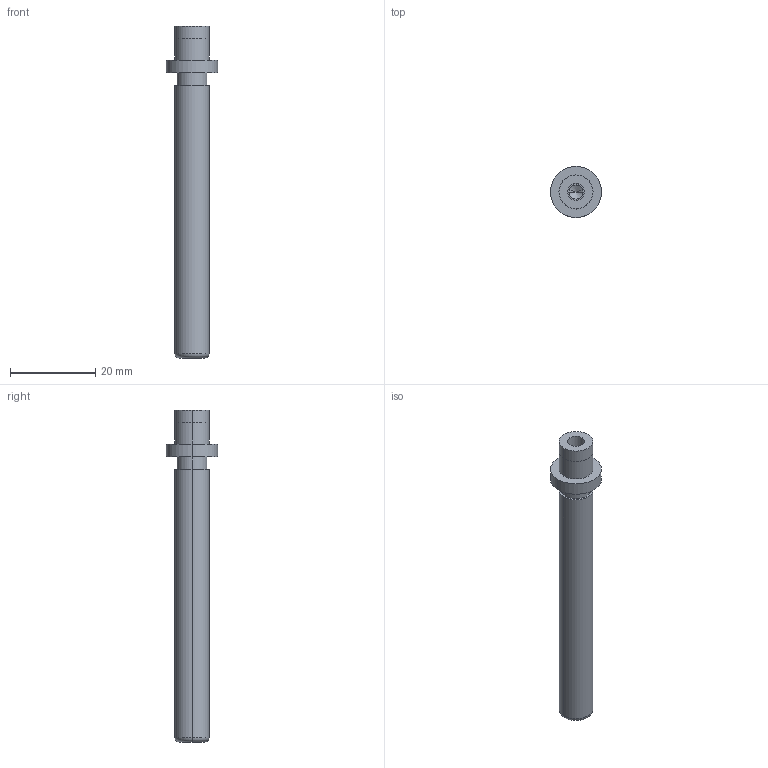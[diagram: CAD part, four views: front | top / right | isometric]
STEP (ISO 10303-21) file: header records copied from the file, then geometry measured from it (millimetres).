
FILE_DESCRIPTION(/* description */ (''),/* implementation_level */ '2;1');
FILE_NAME(/* name */ '3d_sgpw8-70_05252_r00.stp',/* time_stamp */ '2011-01-10T14:11:02+09:00',/* author */ ('MISUMI'),/* organization */ (''),/* preprocessor_version */ 'ST-DEVELOPER v11',/* originating_system */ 'UGS - NX 5.0',/* authorisation */ '');
FILE_SCHEMA (('CONFIG_CONTROL_DESIGN'));
Length unit declared in the file: millimetre
Products named in the file (1): 3d_sgpw8-70_05252_r00
Bounding box: 12 x 12 x 78 mm (x, y, z)
Volume: 3777.8 mm3; surface area: 2522.6 mm2
Topology: 1 solids, 1 shells, 31 faces, 64 edges, 38 vertices
Faces by surface type: cylinder 18, plane 7, cone 4, torus 2
Entity records: 890 total; most frequent: DIRECTION 162, CARTESIAN_POINT 130, ORIENTED_EDGE 120, AXIS2_PLACEMENT_3D 70, EDGE_CURVE 60, EDGE_LOOP 38, CIRCLE 38, VERTEX_POINT 38
